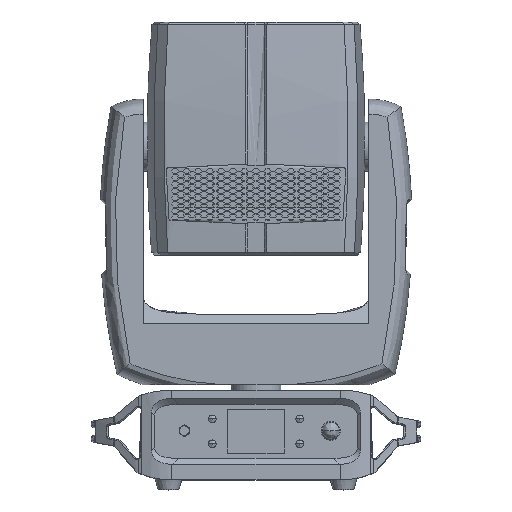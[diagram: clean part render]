
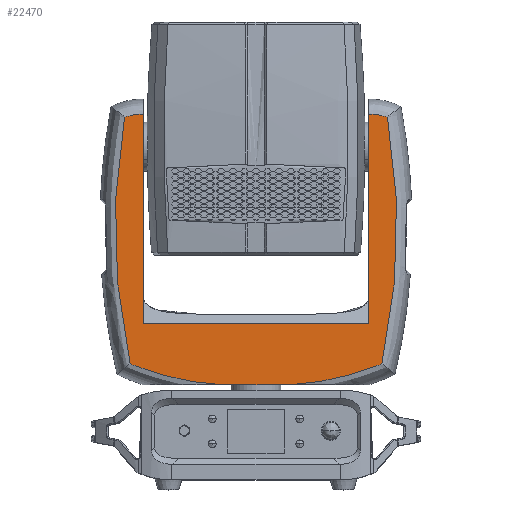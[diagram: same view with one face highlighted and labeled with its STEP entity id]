
A CAD part, top view. The second image highlights one B-rep face of the part: STEP entity #22470.
In plain terms, the highlighted planar face has unit normal (0, 0, 1).
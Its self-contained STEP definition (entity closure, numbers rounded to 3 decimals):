
#19940=CARTESIAN_POINT('',(-113.,318.451,
47.2));
#19942=CARTESIAN_POINT('',(-131.932,315.343,
47.2));
#20225=DIRECTION('',(1.,0.,0.));
#20226=VECTOR('',#20225,226.);
#20227=CARTESIAN_POINT('',(-113.,108.374,47.2));
#20228=LINE('',#20227,#20226);
#20229=DIRECTION('',(0.,1.,0.));
#20230=VECTOR('',#20229,210.077);
#20231=CARTESIAN_POINT('',(113.,108.374,47.2));
#20232=LINE('',#20231,#20230);
#20233=CARTESIAN_POINT('',(113.25,260.766,47.201));
#20234=DIRECTION('',(0.,0.,-1.));
#20235=DIRECTION('',(-0.004,1.,0.));
#20236=AXIS2_PLACEMENT_3D('',#20233,#20234,#20235);
#20238=CARTESIAN_POINT('',(113.25,260.766,47.201));
#20239=DIRECTION('',(0.,0.,-1.));
#20240=DIRECTION('',(0.224,0.975,0.));
#20241=AXIS2_PLACEMENT_3D('',#20238,#20239,#20240);
#20243=CARTESIAN_POINT('',(-490.586,205.812,
47.201));
#20244=DIRECTION('',(0.,0.,-1.));
#20245=DIRECTION('',(0.985,0.173,0.));
#20246=AXIS2_PLACEMENT_3D('',#20243,#20244,#20245);
#20248=CARTESIAN_POINT('',(19.22,322.314,47.201));
#20249=DIRECTION('',(0.,0.,-1.));
#20250=DIRECTION('',(0.388,-0.922,0.));
#20251=AXIS2_PLACEMENT_3D('',#20248,#20249,#20250);
#20253=CARTESIAN_POINT('',(19.22,322.314,47.201));
#20254=DIRECTION('',(0.,0.,-1.));
#20255=DIRECTION('',(0.369,-0.929,0.));
#20256=AXIS2_PLACEMENT_3D('',#20253,#20254,#20255);
#20258=DIRECTION('',(-1.,0.,0.));
#20259=VECTOR('',#20258,68.934);
#20260=CARTESIAN_POINT('',(34.467,46.874,47.2));
#20261=LINE('',#20260,#20259);
#20262=CARTESIAN_POINT('',(-19.22,322.314,
47.201));
#20263=DIRECTION('',(0.,0.,-1.));
#20264=DIRECTION('',(-0.055,-0.998,0.));
#20265=AXIS2_PLACEMENT_3D('',#20262,#20263,#20264);
#20267=CARTESIAN_POINT('',(-19.22,322.314,
47.201));
#20268=DIRECTION('',(0.,0.,-1.));
#20269=DIRECTION('',(-0.368,-0.93,0.));
#20270=AXIS2_PLACEMENT_3D('',#20267,#20268,#20269);
#20272=CARTESIAN_POINT('',(490.586,205.812,47.201));
#20273=DIRECTION('',(0.,0.,-1.));
#20274=DIRECTION('',(-0.976,-0.218,0.));
#20275=AXIS2_PLACEMENT_3D('',#20272,#20273,#20274);
#20277=CARTESIAN_POINT('',(-113.25,260.766,47.201));
#20278=DIRECTION('',(0.,0.,-1.));
#20279=DIRECTION('',(-0.324,0.946,0.));
#20280=AXIS2_PLACEMENT_3D('',#20277,#20278,#20279);
#20282=CARTESIAN_POINT('',(-113.25,260.766,47.201));
#20283=DIRECTION('',(0.,0.,-1.));
#20284=DIRECTION('',(-0.226,0.974,0.));
#20285=AXIS2_PLACEMENT_3D('',#20282,#20283,#20284);
#20287=DIRECTION('',(0.,-1.,0.));
#20288=VECTOR('',#20287,210.077);
#20289=CARTESIAN_POINT('',(-113.,318.451,
47.2));
#20290=LINE('',#20289,#20288);
#20317=CARTESIAN_POINT('',(113.,318.451,47.2));
#21092=VERTEX_POINT('',#19942);
#21093=CARTESIAN_POINT('',(-126.307,68.085,
47.201));
#21094=VERTEX_POINT('',#21093);
#21100=VERTEX_POINT('',#19940);
#21101=CARTESIAN_POINT('',(-126.27,316.963,
47.201));
#21102=VERTEX_POINT('',#21101);
#21111=CARTESIAN_POINT('',(-113.,108.374,47.2));
#21112=VERTEX_POINT('',#21111);
#21133=VERTEX_POINT('',#20317);
#21134=CARTESIAN_POINT('',(113.,108.374,47.2));
#21135=VERTEX_POINT('',#21134);
#21158=CARTESIAN_POINT('',(-120.636,65.77,
47.201));
#21159=VERTEX_POINT('',#21158);
#21160=CARTESIAN_POINT('',(-34.467,46.874,
47.201));
#21161=VERTEX_POINT('',#21160);
#21162=CARTESIAN_POINT('',(126.165,316.988,47.201));
#21163=CARTESIAN_POINT('',(131.932,315.343,47.201));
#21164=VERTEX_POINT('',#21162);
#21165=VERTEX_POINT('',#21163);
#21166=CARTESIAN_POINT('',(126.307,68.085,47.201));
#21167=VERTEX_POINT('',#21166);
#21168=CARTESIAN_POINT('',(121.114,65.96,47.201));
#21169=CARTESIAN_POINT('',(34.467,46.874,47.201));
#21170=VERTEX_POINT('',#21168);
#21171=VERTEX_POINT('',#21169);
#22442=CARTESIAN_POINT('',(0.,0.,47.2));
#22443=DIRECTION('',(0.,0.,-1.));
#22444=DIRECTION('',(-1.,0.,0.));
#22445=AXIS2_PLACEMENT_3D('',#22442,#22443,#22444);
#22446=PLANE('',#22445);
#22448=ORIENTED_EDGE('',*,*,#22447,.T.);
#22449=ORIENTED_EDGE('',*,*,#22297,.T.);
#22451=ORIENTED_EDGE('',*,*,#22450,.T.);
#22453=ORIENTED_EDGE('',*,*,#22452,.T.);
#22455=ORIENTED_EDGE('',*,*,#22454,.T.);
#22457=ORIENTED_EDGE('',*,*,#22456,.T.);
#22459=ORIENTED_EDGE('',*,*,#22458,.T.);
#22461=ORIENTED_EDGE('',*,*,#22460,.T.);
#22462=ORIENTED_EDGE('',*,*,#22431,.T.);
#22463=ORIENTED_EDGE('',*,*,#22429,.T.);
#22464=ORIENTED_EDGE('',*,*,#21581,.T.);
#22465=ORIENTED_EDGE('',*,*,#22181,.T.);
#22466=ORIENTED_EDGE('',*,*,#22179,.T.);
#22467=ORIENTED_EDGE('',*,*,#22202,.T.);
#22468=EDGE_LOOP('',(#22448,#22449,#22451,#22453,#22455,#22457,#22459,#22461,
#22462,#22463,#22464,#22465,#22466,#22467));
#22469=FACE_OUTER_BOUND('',#22468,.F.);
#20237=CIRCLE('',#20236,57.686);
#20242=CIRCLE('',#20241,57.686);
#20247=CIRCLE('',#20246,632.08);
#20252=CIRCLE('',#20251,275.862);
#20257=CIRCLE('',#20256,275.862);
#20266=CIRCLE('',#20265,275.862);
#20271=CIRCLE('',#20270,275.862);
#20276=CIRCLE('',#20275,632.08);
#20281=CIRCLE('',#20280,57.686);
#20286=CIRCLE('',#20285,57.686);
#21581=EDGE_CURVE('',#21094,#21092,#20276,.T.);
#22179=EDGE_CURVE('',#21102,#21100,#20286,.T.);
#22181=EDGE_CURVE('',#21092,#21102,#20281,.T.);
#22202=EDGE_CURVE('',#21100,#21112,#20290,.T.);
#22297=EDGE_CURVE('',#21135,#21133,#20232,.T.);
#22429=EDGE_CURVE('',#21159,#21094,#20271,.T.);
#22431=EDGE_CURVE('',#21161,#21159,#20266,.T.);
#22447=EDGE_CURVE('',#21112,#21135,#20228,.T.);
#22450=EDGE_CURVE('',#21133,#21164,#20237,.T.);
#22452=EDGE_CURVE('',#21164,#21165,#20242,.T.);
#22454=EDGE_CURVE('',#21165,#21167,#20247,.T.);
#22456=EDGE_CURVE('',#21167,#21170,#20252,.T.);
#22458=EDGE_CURVE('',#21170,#21171,#20257,.T.);
#22460=EDGE_CURVE('',#21171,#21161,#20261,.T.);
#22470=ADVANCED_FACE('',(#22469),#22446,.F.);
